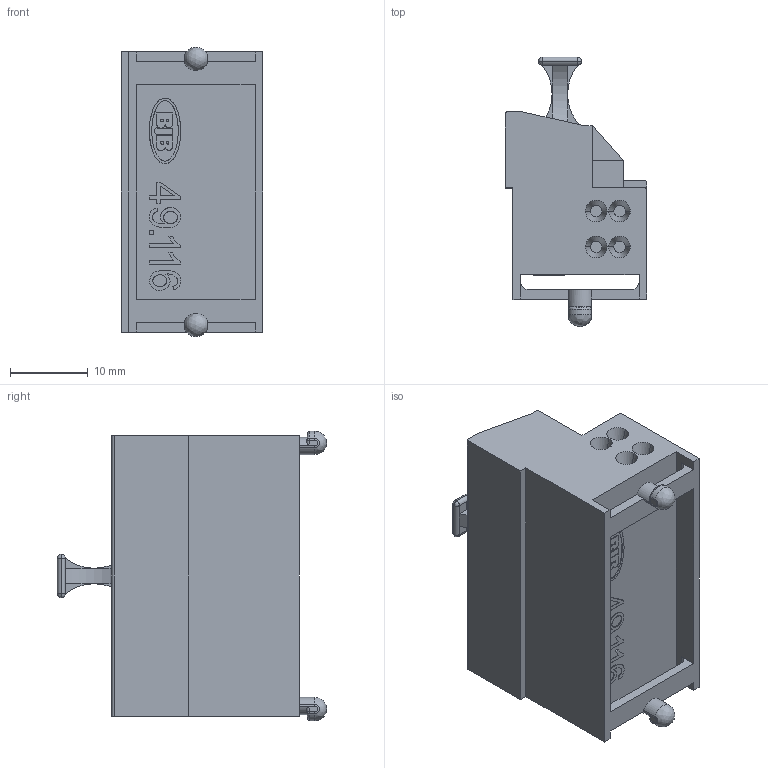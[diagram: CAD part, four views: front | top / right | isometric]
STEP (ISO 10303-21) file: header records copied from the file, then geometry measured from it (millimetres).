
FILE_DESCRIPTION((' '),'1');
FILE_NAME('00VYJ00Y04.stp','2010-03-04 T13:32:30',(' '),(' '),'STEP Interface v1.0 by CT CoreTechnologie','3D_Evolution v1.0 by CT CoreTechnologie',' ');
FILE_SCHEMA(('CONFIG_CONTROL_DESIGN'));
Length unit declared in the file: millimetre
Products named in the file (1): 00VYJ00Y04
Bounding box: 18.2 x 34.6 x 37.2 mm (x, y, z)
Volume: 11336.2 mm3; surface area: 4449.4 mm2
Topology: 1 solids, 1 shells, 261 faces, 678 edges, 435 vertices
Faces by surface type: plane 151, cylinder 65, bspline 45
Entity records: 11792 total; most frequent: CARTESIAN_POINT 3084, ORIENTED_EDGE 1340, DIRECTION 1290, EDGE_CURVE 670, VECTOR 440, LINE 440, VERTEX_POINT 435, AXIS2_PLACEMENT_3D 425
